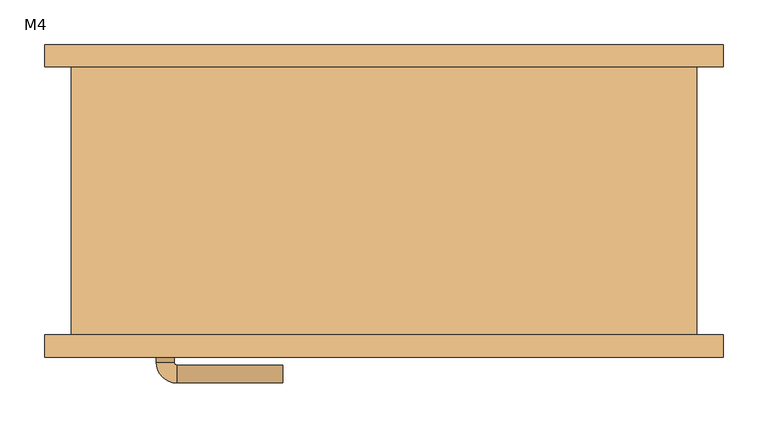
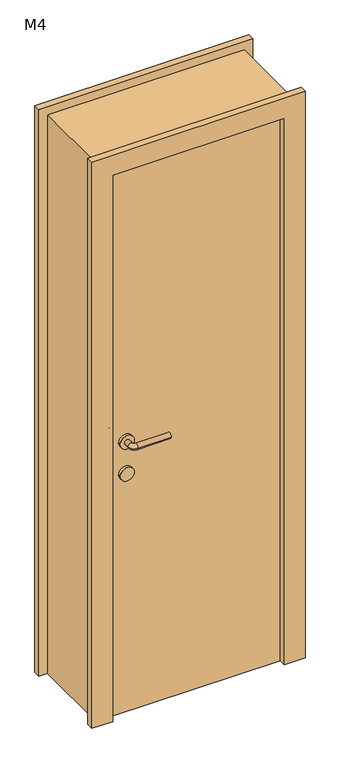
"""IFC4 building model written with IfcOpenShell, lengths in millimetres: door geometry, 单嵌板木门 1 : M4."""

import ifcopenshell
import ifcopenshell.guid

model = None  # the IFC model being written
_history = None  # IfcOwnerHistory: only IFC2X3 demands one
_inside = {}  # id of a spatial element -> (the spatial element, [elements in it])
_under = {}  # id of a project, library or spatial element -> (it, [spatial elements below it])
_declared = {}  # id of a project -> (the project, [libraries it declares])
_typed = {}  # id of a type object -> (the type object, [elements of that type])
_made_of = {}  # id of a material, layer set ... -> (it, [elements and type objects made of it])


def new_model(schema):
    """Start an empty IFC model of exactly this schema.

    Asked for "IFC4X3", IfcOpenShell would pick the latest addendum, in which some entities
    have other attributes; the version numbers below select the first issue.
    IFC2X3 requires an IfcOwnerHistory on every rooted entity: one is made here for all.
    """
    global model, _history
    if schema == "IFC4X3":
        model = ifcopenshell.file(schema_version=(4, 3, 0, 0))
    else:
        model = ifcopenshell.file(schema=schema)
    _inside.clear()
    _under.clear()
    _declared.clear()
    _typed.clear()
    _made_of.clear()
    _history = None
    if model.schema == "IFC2X3":
        org = make("IfcOrganization", Name="unknown")
        user = make(
            "IfcPersonAndOrganization",
            ThePerson=make("IfcPerson", FamilyName="unknown"),
            TheOrganization=org,
        )
        app = make(
            "IfcApplication",
            ApplicationDeveloper=org,
            Version="unknown",
            ApplicationFullName="unknown",
            ApplicationIdentifier="unknown",
        )
        _history = make(
            "IfcOwnerHistory",
            OwningUser=user,
            OwningApplication=app,
            ChangeAction="ADDED",
            CreationDate=0,
        )
    return model


def make(cls, **values):
    """One entity of the class cls with the attributes given. An attribute that is None is left unset."""
    return model.create_entity(
        cls, **{name: value for name, value in values.items() if value is not None}
    )


def rooted(cls, **values):
    """An entity with a GlobalId (a new one), such as an element, a storey or a relation."""
    return make(cls, GlobalId=ifcopenshell.guid.new(), OwnerHistory=_history, **values)


def si_unit(unit_type, name, prefix=None):
    """IfcSIUnit, for example si_unit("LENGTHUNIT", "METRE", prefix="MILLI")."""
    return make("IfcSIUnit", UnitType=unit_type, Prefix=prefix, Name=name)


def assignment(units):
    """IfcUnitAssignment: the units of a project."""
    return None if units is None else make("IfcUnitAssignment", Units=units)


def point(xyz):
    """IfcCartesianPoint."""
    return None if xyz is None else make("IfcCartesianPoint", Coordinates=xyz)


def direction(xyz):
    """IfcDirection."""
    return None if xyz is None else make("IfcDirection", DirectionRatios=xyz)


def frame(location, z_axis=None, x_axis=None):
    """IfcAxis2Placement3D, a coordinate frame: its origin and axes. An axis left out is left unset."""
    return make(
        "IfcAxis2Placement3D",
        Location=point(location),
        Axis=direction(z_axis),
        RefDirection=direction(x_axis),
    )


def frame_2d(location, x_axis=None):
    """IfcAxis2Placement2D, a coordinate frame in the plane: its origin and x axis."""
    return make(
        "IfcAxis2Placement2D", Location=point(location), RefDirection=direction(x_axis)
    )


def origin():
    """The frame at (0, 0, 0) with its axes left unset."""
    return frame((0.0, 0.0, 0.0))


def origin_with_axes():
    """The frame at (0, 0, 0) with the z axis (0, 0, 1) and the x axis (1, 0, 0) written out."""
    return frame((0.0, 0.0, 0.0), z_axis=(0.0, 0.0, 1.0), x_axis=(1.0, 0.0, 0.0))


def place(relative_to, where):
    """IfcLocalPlacement: puts the frame where relative to a parent placement (None: the world)."""
    return make(
        "IfcLocalPlacement", PlacementRelTo=relative_to, RelativePlacement=where
    )


def context(
    kind, dimensions, precision=None, world=None, true_north=None, identifier=None
):
    """IfcGeometricRepresentationContext, for example the 3D "Model" context."""
    return make(
        "IfcGeometricRepresentationContext",
        ContextIdentifier=identifier,
        ContextType=kind,
        CoordinateSpaceDimension=dimensions,
        Precision=precision,
        WorldCoordinateSystem=world,
        TrueNorth=true_north,
    )


def project(units=None, contexts=None):
    """IfcProject with its units and contexts."""
    return rooted(
        "IfcProject",
        Name="project",
        RepresentationContexts=contexts,
        UnitsInContext=assignment(units),
    )


def spatial(cls, under=None, at=None, **own):
    """A site, building, storey or space (cls), placed at a placement, below another one or the project."""
    s = rooted(cls, ObjectPlacement=at, **own)
    if under is not None:
        _under.setdefault(under.id(), (under, []))[1].append(s)
    return s


def polyline(points):
    """IfcPolyline through the points."""
    return make("IfcPolyline", Points=[point(p) for p in points])


def circle_curve(where, radius):
    """IfcCircle in the frame where."""
    return make("IfcCircle", Position=where, Radius=radius)


def ellipse_curve(where, semi_axis1, semi_axis2):
    """IfcEllipse in the frame where."""
    return make(
        "IfcEllipse", Position=where, SemiAxis1=semi_axis1, SemiAxis2=semi_axis2
    )


def trimmed(basis, trim1, trim2, sense, master):
    """IfcTrimmedCurve: the piece of a basis curve between two trims."""
    return make(
        "IfcTrimmedCurve",
        BasisCurve=basis,
        Trim1=trim1,
        Trim2=trim2,
        SenseAgreement=sense,
        MasterRepresentation=master,
    )


def segment(curve, same_sense, transition):
    """IfcCompositeCurveSegment."""
    return make(
        "IfcCompositeCurveSegment",
        Transition=transition,
        SameSense=same_sense,
        ParentCurve=curve,
    )


def composite_curve(segments, self_intersect=None):
    """IfcCompositeCurve: segments joined end to end."""
    return make("IfcCompositeCurve", Segments=segments, SelfIntersect=self_intersect)


def outline(outer, holes=None, kind="AREA"):
    """IfcArbitraryClosedProfileDef: a profile drawn as a closed curve; with holes, ...WithVoids."""
    if holes is None:
        return make("IfcArbitraryClosedProfileDef", ProfileType=kind, OuterCurve=outer)
    return make(
        "IfcArbitraryProfileDefWithVoids",
        ProfileType=kind,
        OuterCurve=outer,
        InnerCurves=holes,
    )


def extrude(swept, where, along, depth):
    """IfcExtrudedAreaSolid: the profile swept, set in the frame where, extruded along a direction by depth."""
    return make(
        "IfcExtrudedAreaSolid",
        SweptArea=swept,
        Position=where,
        ExtrudedDirection=direction(along),
        Depth=depth,
    )


def shape(context_of_items, identifier, shape_type, items):
    """IfcShapeRepresentation: the items that make up one representation, for example the "Body"."""
    return make(
        "IfcShapeRepresentation",
        ContextOfItems=context_of_items,
        RepresentationIdentifier=identifier,
        RepresentationType=shape_type,
        Items=items,
    )


def source(mapping_origin, context_of_items, identifier, shape_type, items):
    """IfcRepresentationMap: a shape defined once, which mapped items show again and again."""
    return make(
        "IfcRepresentationMap",
        MappingOrigin=mapping_origin,
        MappedRepresentation=shape(context_of_items, identifier, shape_type, items),
    )


def transform(
    local_origin,
    x_axis=None,
    y_axis=None,
    z_axis=None,
    scale=None,
    scale2=None,
    scale3=None,
    uniform=True,
):
    """IfcCartesianTransformationOperator3D, or its non-uniform kind. x_axis, y_axis, z_axis: its Axis1, 2, 3."""
    if uniform:
        return make(
            "IfcCartesianTransformationOperator3D",
            Axis1=direction(x_axis),
            Axis2=direction(y_axis),
            LocalOrigin=point(local_origin),
            Scale=scale,
            Axis3=direction(z_axis),
        )
    return make(
        "IfcCartesianTransformationOperator3DnonUniform",
        Axis1=direction(x_axis),
        Axis2=direction(y_axis),
        LocalOrigin=point(local_origin),
        Scale=scale,
        Axis3=direction(z_axis),
        Scale2=scale2,
        Scale3=scale3,
    )


def mapped(mapping_source, mapping_target):
    """IfcMappedItem: shows the shape of a source again, moved by a transform."""
    return make(
        "IfcMappedItem", MappingSource=mapping_source, MappingTarget=mapping_target
    )


def made_of(thing, what):
    """Note that an element or type object is made of a material, layer set ...; save() writes the relation."""
    if what is not None:
        _made_of.setdefault(what.id(), (what, []))[1].append(thing)
    return thing


def element(
    cls,
    number,
    at=None,
    inside=None,
    cuts=None,
    type_object=None,
    material=None,
    context=None,
    identifier="Body",
    shape_type=None,
    held_by="IfcProductDefinitionShape",
    body=None,
    shapes=None,
    **own,
):
    """One element of the class cls, such as IfcWall. Its Tag is "e" and its number.

    at: its placement. inside: the storey or other place that contains it. cuts: it is an
    opening in that element (IfcRelVoidsElement). A single representation is given by context,
    identifier, shape_type and body (its items); several are given by shapes. held_by: the class
    of the entity that holds the representations. save() writes the other relations.
    """
    e = rooted(cls, Tag="e%d" % number, ObjectPlacement=at, **own)
    if body is not None:
        shapes = [shape(context, identifier, shape_type, body)]
    if shapes is not None:
        e.Representation = make(held_by, Representations=shapes)
    if inside is not None:
        _inside.setdefault(inside.id(), (inside, []))[1].append(e)
    if cuts is not None:
        rooted(
            "IfcRelVoidsElement", RelatingBuildingElement=cuts, RelatedOpeningElement=e
        )
    if type_object is not None:
        _typed.setdefault(type_object.id(), (type_object, []))[1].append(e)
    return made_of(e, material)


def aggregate(whole, parts):
    """IfcRelAggregates: a whole, such as a stair, and the parts it consists of."""
    return rooted("IfcRelAggregates", RelatingObject=whole, RelatedObjects=parts)


def save(model, path):
    """Write the relations noted so far, then the file.

    IfcRelAggregates (storeys below a building ...), IfcRelContainedInSpatialStructure (elements
    in a storey), IfcRelDefinesByType, IfcRelAssociatesMaterial and IfcRelDeclares: one each for
    every whole, place, type object, material and project.
    """
    for whole, parts in _under.values():
        aggregate(whole, parts)
    for where, things in _inside.values():
        rooted(
            "IfcRelContainedInSpatialStructure",
            RelatedElements=things,
            RelatingStructure=where,
        )
    for kind, things in _typed.values():
        rooted("IfcRelDefinesByType", RelatedObjects=things, RelatingType=kind)
    for what, things in _made_of.values():
        rooted("IfcRelAssociatesMaterial", RelatedObjects=things, RelatingMaterial=what)
    for by, libraries in _declared.values():
        rooted("IfcRelDeclares", RelatingContext=by, RelatedDefinitions=libraries)
    model.write(path)


def plane_surface(at):
    """IfcPlane: the flat surface through the origin of the frame at, square to its z axis."""
    return make("IfcPlane", Position=at)


def cylinder_surface(at, radius):
    """IfcCylindricalSurface: all points at the distance radius from the z axis of the frame at."""
    return make("IfcCylindricalSurface", Position=at, Radius=radius)


def revolved_surface(curve, axis_point, axis_direction):
    """IfcSurfaceOfRevolution: the curve turned about the line through axis_point along axis_direction."""
    return make(
        "IfcSurfaceOfRevolution",
        SweptCurve=make("IfcArbitraryOpenProfileDef", ProfileType="CURVE", Curve=curve),
        AxisPosition=make("IfcAxis1Placement", Location=point(axis_point), Axis=direction(axis_direction)),
    )


def advanced_brep(points, edges, surfaces, faces):
    """IfcAdvancedBrep: a solid bounded by faces that lie on surfaces and meet in shared edges.

    An edge is (start, end): straight between two places in points (the first is 0);
    or (start, end, curve); or (start, end, curve, False) where it runs against its curve.
    A face is (place in surfaces, loops), or (place, loops, False) where it looks against
    its surface's normal. A loop lists edges by number (the first is 1), with a minus sign
    where the edge is run from its end to its start. The first loop is the outer one.
    """
    corners = [point(p) for p in points]
    vertices = [make("IfcVertexPoint", VertexGeometry=c) for c in corners]
    made = []
    for start, end, *more in edges:
        made.append(
            make(
                "IfcEdgeCurve",
                EdgeStart=vertices[start],
                EdgeEnd=vertices[end],
                EdgeGeometry=more[0] if more else make("IfcPolyline", Points=[corners[start], corners[end]]),
                SameSense=more[1] if len(more) > 1 else True,
            )
        )
    hull = []
    for where, loops, *sense in faces:
        bounds = []
        for j, loop in enumerate(loops):
            ring = [make("IfcOrientedEdge", EdgeElement=made[abs(k) - 1], Orientation=k > 0) for k in loop]
            bounds.append(
                make(
                    "IfcFaceOuterBound" if j == 0 else "IfcFaceBound",
                    Bound=make("IfcEdgeLoop", EdgeList=ring),
                    Orientation=True,
                )
            )
        hull.append(make("IfcAdvancedFace", Bounds=bounds, FaceSurface=surfaces[where], SameSense=sense[0] if sense else True))
    return make("IfcAdvancedBrep", Outer=make("IfcClosedShell", CfsFaces=hull))


def m4_2c85f747(model_context):
    return source(origin(), model_context, "Body", "SolidModel", [
        extrude(outline(composite_curve([segment(trimmed(circle_curve(frame_2d((900.0, -245.0)), 25.0), [point((900.0, -220.0))], [point((900.0, -270.0))], False, "CARTESIAN"), True, "CONTINUOUS"), segment(trimmed(circle_curve(frame_2d((900.0, -245.0)), 25.0), [point((900.0, -270.0))], [point((900.0, -220.0))], False, "CARTESIAN"), True, "CONTINUOUS")], self_intersect=False)), frame((0.0, -100.0, 0.0), z_axis=(0.0, 1.0, 0.0), x_axis=(0.0, 0.0, 1.0)), (0.0, 0.0, 1.0), 10.0),
        extrude(outline(composite_curve([segment(trimmed(circle_curve(frame_2d((900.0, -245.0)), 25.0), [point((900.0, -220.0))], [point((900.0, -270.0))], False, "CARTESIAN"), True, "CONTINUOUS"), segment(trimmed(circle_curve(frame_2d((900.0, -245.0)), 25.0), [point((900.0, -270.0))], [point((900.0, -220.0))], False, "CARTESIAN"), True, "CONTINUOUS")], self_intersect=False)), frame((0.0, -160.0, 0.0), z_axis=(0.0, 1.0, 0.0), x_axis=(0.0, 0.0, 1.0)), (0.0, 0.0, 1.0), 10.0),
        advanced_brep(
        [(-255.0, -90.0, 1020.0), (-235.0, -90.0, 1020.0), (-255.0, -69.3866449, 1020.0), (-235.0, -69.3866449, 1020.0), (-113.419036, -46.419036, 1020.0), (-113.419036, -66.419036, 1020.0), (-232.0323911, -66.419036, 1020.0), (-232.0323911, -46.419036, 1020.0)],
        [
            (0, 1, circle_curve(frame((-245.0, -90.0, 1020.0), z_axis=(0.0, -1.0, 0.0), x_axis=(1.0, 0.0, 0.0)), 10.0)),
            (1, 0, circle_curve(frame((-245.0, -90.0, 1020.0), z_axis=(0.0, -1.0, 0.0), x_axis=(1.0, 0.0, 0.0)), 10.0)),
            (0, 2),
            (2, 3, circle_curve(frame((-245.0, -69.3866449, 1020.0), z_axis=(0.0, -1.0, 0.0), x_axis=(1.0, 0.0, 0.0)), 10.0)),
            (3, 1),
            (3, 2, circle_curve(frame((-245.0, -69.3866449, 1020.0), z_axis=(0.0, -1.0, 0.0), x_axis=(1.0, 0.0, 0.0)), 10.0)),
            (4, 5, circle_curve(frame((-113.419036, -56.419036, 1020.0), z_axis=(1.0, 0.0, 0.0), x_axis=(0.0, -1.0, 0.0)), 10.0)),
            (5, 4, circle_curve(frame((-113.419036, -56.419036, 1020.0), z_axis=(1.0, 0.0, 0.0), x_axis=(0.0, -1.0, 0.0)), 10.0)),
            (6, 7, circle_curve(frame((-232.0323911, -56.419036, 1020.0), z_axis=(-1.0, 0.0, 0.0), x_axis=(0.0, -1.0, 0.0)), 10.0)),
            (7, 2, circle_curve(frame((-232.0323911, -69.3866449, 1020.0), z_axis=(0.0, 0.0, 1.0), x_axis=(-1.0, 0.0, 0.0)), 22.9676089)),
            (3, 6, circle_curve(frame((-232.0323911, -69.3866449, 1020.0), z_axis=(0.0, 0.0, -1.0), x_axis=(-1.0, 0.0, 0.0)), 2.9676089)),
            (7, 6, circle_curve(frame((-232.0323911, -56.419036, 1020.0), z_axis=(-1.0, 0.0, 0.0), x_axis=(0.0, -1.0, 0.0)), 10.0)),
            (6, 5),
            (4, 7),
        ],
        [
            plane_surface(frame((-245.0, -90.0, 900.0), z_axis=(0.0, -1.0, 0.0), x_axis=(0.0, 0.0, 1.0))),
            cylinder_surface(frame((-245.0, -90.0, 1020.0), z_axis=(0.0, -1.0, 0.0), x_axis=(1.0, 0.0, 0.0)), 10.0),
            plane_surface(frame((-113.419036, -56.419036, 900.0), z_axis=(1.0, 0.0, 0.0), x_axis=(0.0, 0.0, 1.0))),
            revolved_surface(trimmed(ellipse_curve(frame((-245.0, -69.3866449, 1020.0), z_axis=(0.0, 1.0, 0.0), x_axis=(1.0, 0.0, 0.0)), 10.0, 10.0), [point((-255.0, -69.3866449, 1020.0))], [point((-235.0, -69.3866449, 1020.0))], True, "CARTESIAN"), (-232.0323911, -69.3866449, 900.0), (0.0, 0.0, 1.0)),
            revolved_surface(trimmed(ellipse_curve(frame((-245.0, -69.3866449, 1020.0), z_axis=(0.0, 1.0, 0.0), x_axis=(1.0, 0.0, 0.0)), 10.0, 10.0), [point((-235.0, -69.3866449, 1020.0))], [point((-255.0, -69.3866449, 1020.0))], True, "CARTESIAN"), (-232.0323911, -69.3866449, 900.0), (0.0, 0.0, 1.0)),
            cylinder_surface(frame((-232.0323911, -56.419036, 1020.0), z_axis=(-1.0, 0.0, 0.0), x_axis=(0.0, -1.0, 0.0)), 10.0),
        ],
        [
            (0, [[1, 2]]),
            (1, [[3, 4, 5, -1]]),
            (1, [[-5, 6, -3, -2]]),
            (2, [[7, 8]]),
            (3, [[9, 10, -6, 11]]),
            (4, [[12, -11, -4, -10]]),
            (5, [[13, -7, 14, -9]]),
            (5, [[-14, -8, -13, -12]]),
        ],
    ),
        extrude(outline(composite_curve([segment(trimmed(circle_curve(frame_2d((1020.0, -245.0)), 25.0), [point((1020.0, -220.0))], [point((1020.0, -270.0))], False, "CARTESIAN"), True, "CONTINUOUS"), segment(trimmed(circle_curve(frame_2d((1020.0, -245.0)), 25.0), [point((1020.0, -270.0))], [point((1020.0, -220.0))], False, "CARTESIAN"), True, "CONTINUOUS")], self_intersect=False)), frame((0.0, -100.0, 0.0), z_axis=(0.0, 1.0, 0.0), x_axis=(0.0, 0.0, 1.0)), (0.0, 0.0, 1.0), 10.0),
        advanced_brep(
        [(-235.0, -160.0, 1020.0), (-255.0, -160.0, 1020.0), (-255.0, -180.6133551, 1020.0), (-235.0, -180.6133551, 1020.0), (-113.419036, -183.580964, 1020.0), (-113.419036, -203.580964, 1020.0), (-232.0323911, -203.580964, 1020.0), (-232.0323911, -183.580964, 1020.0)],
        [
            (0, 1, circle_curve(frame((-245.0, -160.0, 1020.0), z_axis=(0.0, 1.0, 0.0), x_axis=(-1.0, 0.0, 0.0)), 10.0)),
            (1, 0, circle_curve(frame((-245.0, -160.0, 1020.0), z_axis=(0.0, 1.0, 0.0), x_axis=(-1.0, 0.0, 0.0)), 10.0)),
            (1, 2),
            (2, 3, circle_curve(frame((-245.0, -180.6133551, 1020.0), z_axis=(0.0, 1.0, 0.0), x_axis=(-1.0, 0.0, 0.0)), 10.0)),
            (3, 0),
            (3, 2, circle_curve(frame((-245.0, -180.6133551, 1020.0), z_axis=(0.0, 1.0, 0.0), x_axis=(-1.0, 0.0, 0.0)), 10.0)),
            (4, 5, circle_curve(frame((-113.419036, -193.580964, 1020.0), z_axis=(1.0, 0.0, 0.0), x_axis=(0.0, -1.0, 0.0)), 10.0)),
            (5, 4, circle_curve(frame((-113.419036, -193.580964, 1020.0), z_axis=(1.0, 0.0, 0.0), x_axis=(0.0, -1.0, 0.0)), 10.0)),
            (6, 7, circle_curve(frame((-232.0323911, -193.580964, 1020.0), z_axis=(-1.0, 0.0, 0.0), x_axis=(0.0, -1.0, 0.0)), 10.0)),
            (7, 3, circle_curve(frame((-232.0323911, -180.6133551, 1020.0), z_axis=(0.0, 0.0, -1.0), x_axis=(-1.0, 0.0, 0.0)), 2.9676089)),
            (2, 6, circle_curve(frame((-232.0323911, -180.6133551, 1020.0), z_axis=(0.0, 0.0, 1.0), x_axis=(-1.0, 0.0, 0.0)), 22.9676089)),
            (7, 6, circle_curve(frame((-232.0323911, -193.580964, 1020.0), z_axis=(-1.0, 0.0, 0.0), x_axis=(0.0, -1.0, 0.0)), 10.0)),
            (6, 5),
            (4, 7),
        ],
        [
            plane_surface(frame((-245.0, -160.0, 900.0), z_axis=(0.0, 1.0, 0.0), x_axis=(0.0, 0.0, 1.0))),
            cylinder_surface(frame((-245.0, -160.0, 1020.0), z_axis=(0.0, 1.0, 0.0), x_axis=(-1.0, 0.0, 0.0)), 10.0),
            plane_surface(frame((-113.419036, -193.580964, 900.0), z_axis=(1.0, 0.0, 0.0), x_axis=(0.0, 0.0, 1.0))),
            revolved_surface(trimmed(ellipse_curve(frame((-245.0, -180.6133551, 1020.0), z_axis=(0.0, -1.0, 0.0), x_axis=(-1.0, 0.0, 0.0)), 10.0, 10.0), [point((-235.0, -180.6133551, 1020.0))], [point((-255.0, -180.6133551, 1020.0))], True, "CARTESIAN"), (-232.0323911, -180.6133551, 900.0), (0.0, 0.0, -1.0)),
            revolved_surface(trimmed(ellipse_curve(frame((-245.0, -180.6133551, 1020.0), z_axis=(0.0, -1.0, 0.0), x_axis=(-1.0, 0.0, 0.0)), 10.0, 10.0), [point((-255.0, -180.6133551, 1020.0))], [point((-235.0, -180.6133551, 1020.0))], True, "CARTESIAN"), (-232.0323911, -180.6133551, 900.0), (0.0, 0.0, -1.0)),
            cylinder_surface(frame((-232.0323911, -193.580964, 1020.0), z_axis=(-1.0, 0.0, 0.0), x_axis=(0.0, -1.0, 0.0)), 10.0),
        ],
        [
            (0, [[1, 2]]),
            (1, [[3, 4, 5, -2]]),
            (1, [[-5, 6, -3, -1]]),
            (2, [[7, 8]]),
            (3, [[9, 10, -4, 11]]),
            (4, [[12, -11, -6, -10]]),
            (5, [[13, -7, 14, -9]]),
            (5, [[-14, -8, -13, -12]]),
        ],
    ),
        extrude(outline(composite_curve([segment(trimmed(circle_curve(frame_2d((1020.0, -245.0)), 25.0), [point((1020.0, -220.0))], [point((1020.0, -270.0))], False, "CARTESIAN"), True, "CONTINUOUS"), segment(trimmed(circle_curve(frame_2d((1020.0, -245.0)), 25.0), [point((1020.0, -270.0))], [point((1020.0, -220.0))], False, "CARTESIAN"), True, "CONTINUOUS")], self_intersect=False)), frame((0.0, -160.0, 0.0), z_axis=(0.0, 1.0, 0.0), x_axis=(0.0, 0.0, 1.0)), (0.0, 0.0, 1.0), 10.0),
        extrude(outline(polyline([(0.0, 380.0), (2130.0, 380.0), (2130.0, -380.0), (0.0, -380.0), (0.0, -305.0), (2055.0, -305.0), (2055.0, 305.0), (0.0, 305.0), (0.0, 380.0)])), frame((0.0, -175.0, 0.0), z_axis=(0.0, 1.0, 0.0), x_axis=(0.0, 0.0, 1.0)), (0.0, 0.0, 1.0), 25.0),
        extrude(outline(polyline([(2130.0, 380.0), (2130.0, -380.0), (0.0, -380.0), (0.0, -305.0), (2055.0, -305.0), (2055.0, 305.0), (0.0, 305.0), (0.0, 380.0), (2130.0, 380.0)])), frame((0.0, 150.0, 0.0), z_axis=(0.0, 1.0, 0.0), x_axis=(0.0, 0.0, 1.0)), (0.0, 0.0, 1.0), 25.0),
        extrude(outline(polyline([(305.0, -100.0), (305.0, -150.0), (-305.0, -150.0), (-305.0, -100.0), (305.0, -100.0)])), origin_with_axes(), (0.0, 0.0, 1.0), 2055.0),
        extrude(outline(polyline([(2100.0, -350.0), (0.0, -350.0), (0.0, -305.0), (2055.0, -305.0), (2055.0, 305.0), (0.0, 305.0), (0.0, 350.0), (2100.0, 350.0), (2100.0, -350.0)])), frame((0.0, -150.0, 0.0), z_axis=(0.0, 1.0, 0.0), x_axis=(0.0, 0.0, 1.0)), (0.0, 0.0, 1.0), 300.0),
    ])


if __name__ == "__main__":
    model = new_model("IFC4")
    model_context = context("Model", 3, world=origin())
    ifc_project = project(units=[si_unit("LENGTHUNIT", "METRE", prefix="MILLI")], contexts=[model_context])
    site = spatial("IfcSite", under=ifc_project)
    building = spatial("IfcBuilding", under=site)
    placement = place(None, origin())
    m4_shape = m4_2c85f747(model_context)
    element("IfcDoor", 1, ObjectType="单嵌板木门 1 : M4", at=placement, inside=building, context=model_context, shape_type="MappedRepresentation", body=[
        mapped(m4_shape, transform((0.0, 0.0, 0.0), x_axis=(1.0, 0.0, 0.0), y_axis=(0.0, 1.0, 0.0), z_axis=(0.0, 0.0, 1.0))),
    ])
    save(model, "model.ifc")
